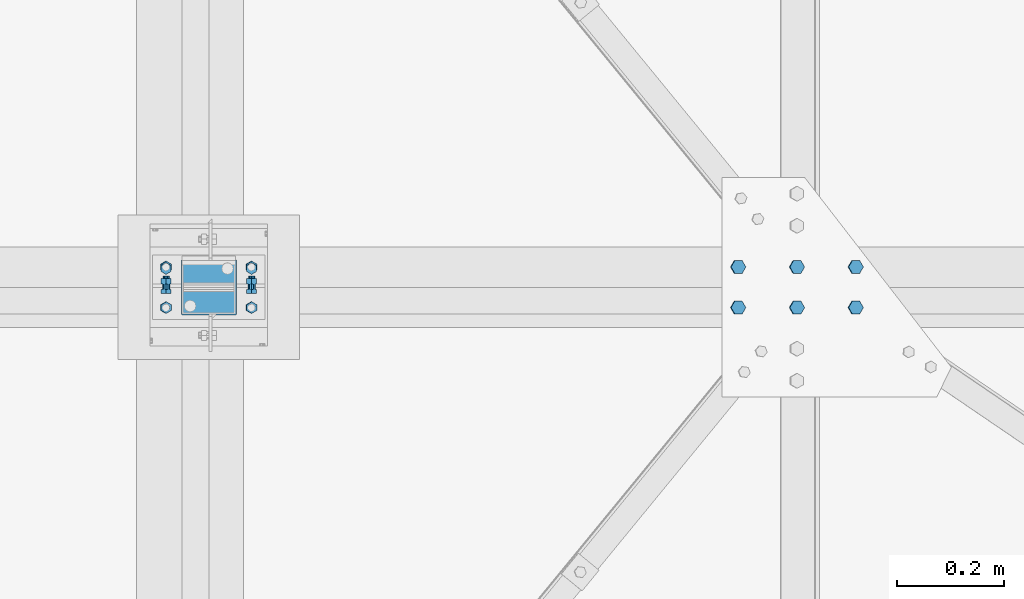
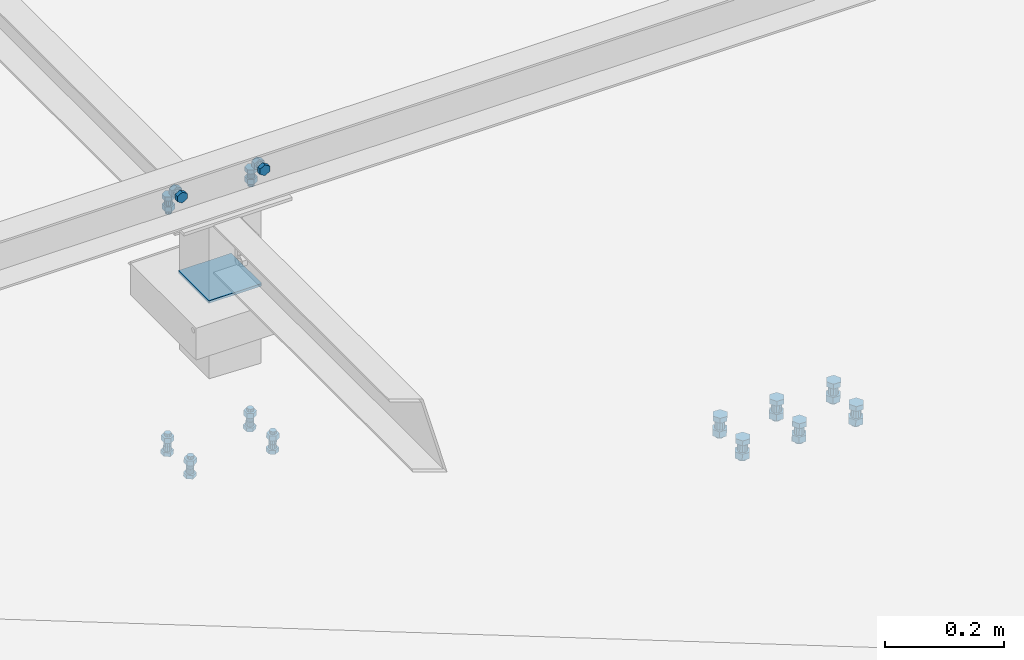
# One storey, part 315 of 3134: 5 mechanical fasteners, 3 elements without a shape of their own.
"""IFC2X3 building model written with IfcOpenShell, lengths in millimetres."""

from ifc_helpers import new_model, si_unit, frame, origin_with_axes, place, context, subcontext, project, spatial, faceted_brep, source, transform, mapped, material, type_object, element, aggregate, save


model = new_model("IFC2X3")

# Units and contexts
model_context = context("Model", 3, precision=1e-05, world=origin_with_axes())
body_context = subcontext(model_context, "Body", "Model", "MODEL_VIEW")
ifc_project = project(units=[si_unit("LENGTHUNIT", "METRE", prefix="MILLI"), si_unit("AREAUNIT", "SQUARE_METRE"), si_unit("VOLUMEUNIT", "CUBIC_METRE"), si_unit("MASSUNIT", "GRAM", prefix="KILO"), si_unit("TIMEUNIT", "SECOND"), si_unit("PLANEANGLEUNIT", "RADIAN"), si_unit("SOLIDANGLEUNIT", "STERADIAN"), si_unit("THERMODYNAMICTEMPERATUREUNIT", "DEGREE_CELSIUS"), si_unit("LUMINOUSINTENSITYUNIT", "LUMEN")], contexts=[model_context])

# Site, building, storey
site_placement = place(None, origin_with_axes())
site = spatial("IfcSite", under=ifc_project, at=site_placement, CompositionType="ELEMENT")
building_placement = place(site_placement, origin_with_axes())
building = spatial("IfcBuilding", under=site, at=building_placement, Name="Undefined", CompositionType="ELEMENT")
storey_placement = place(building_placement, origin_with_axes())
storey = spatial("IfcBuildingStorey", under=building, at=storey_placement, Name="Undefined", CompositionType="ELEMENT", Elevation=0.0)

# Assembly, mechanical fastener
assembly_1_placement = place(storey_placement, origin_with_axes())
assembly_1 = element("IfcElementAssembly", 1, at=assembly_1_placement, inside=storey, Name="300", AssemblyPlace="NOTDEFINED", PredefinedType="RIGID_FRAME")
ifc_material_1 = material(Name="8.8")
mechanical_fastener_type = type_object("IfcMechanicalFastenerType", Name="Bolt assembly")
shared_shape_1 = source(origin_with_axes(), body_context, "Body", "Brep", [
    faceted_brep([(13.856406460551, -23.1999997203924, 0.0), (6.92820323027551, -23.1999997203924, 12.0), (-6.92820323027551, -23.1999997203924, 12.0), (-13.856406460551, -23.1999997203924, 1.69692038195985e-15), (-6.92820323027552, -23.1999997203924, -12.0), (6.9282032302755, -23.1999997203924, -12.0), (6.9282032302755, -13.1999997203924, -12.0), (-6.92820323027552, -13.1999997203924, -12.0), (-13.856406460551, -13.1999997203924, 1.69692038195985e-15), (-6.92820323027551, -13.1999997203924, 12.0), (6.92820323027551, -13.1999997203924, 12.0), (13.856406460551, -13.1999997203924, 0.0), (8.0, -13.1999997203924, 0.0), (6.92820323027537, -13.1999997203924, 4.00000000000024), (3.99999999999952, -13.1999997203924, 6.92820323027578), (-8.29068785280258e-13, -13.1999997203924, 8.0), (-4.00000000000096, -13.1999997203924, 6.92820323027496), (-6.9282032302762, -13.1999997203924, 3.99999999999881), (-8.0, -13.1999997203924, -1.65813757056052e-12), (-6.92820323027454, -13.1999997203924, -4.00000000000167), (-3.99999999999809, -13.1999997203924, -6.92820323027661), (2.47832457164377e-12, -13.1999997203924, -8.0), (4.00000000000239, -13.1999997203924, -6.92820323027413), (6.92820323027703, -13.1999997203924, -3.99999999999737), (6.92820323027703, 21.8000002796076, -3.99999999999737), (4.00000000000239, 21.8000002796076, -6.92820323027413), (2.47832457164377e-12, 21.8000002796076, -8.0), (-3.99999999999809, 21.8000002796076, -6.92820323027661), (-6.92820323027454, 21.8000002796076, -4.00000000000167), (-8.0, 21.8000002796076, -1.65813757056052e-12), (-6.9282032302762, 21.8000002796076, 3.99999999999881), (-4.00000000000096, 21.8000002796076, 6.92820323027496), (-8.29068785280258e-13, 21.8000002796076, 8.0), (3.99999999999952, 21.8000002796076, 6.92820323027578), (6.92820323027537, 21.8000002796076, 4.00000000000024), (8.0, 21.8000002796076, 0.0), (13.856406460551, 3.99999999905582, 0.0), (6.92820323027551, 3.99999999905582, 12.0), (-6.92820323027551, 3.99999999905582, 12.0), (-13.856406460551, 3.99999999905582, 1.69692038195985e-15), (-6.92820323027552, 3.99999999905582, -12.0), (6.9282032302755, 3.99999999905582, -12.0), (6.9282032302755, 16.9999999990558, -12.0), (-6.92820323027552, 16.9999999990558, -12.0), (-13.856406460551, 16.9999999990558, 1.69692038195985e-15), (-6.92820323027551, 16.9999999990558, 12.0), (6.92820323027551, 16.9999999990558, 12.0), (13.856406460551, 16.9999999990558, 0.0)], [[[0, 1, 2, 3, 4, 5]], [[6, 7, 8, 9, 10, 11]], [[0, 11, 10, 1]], [[1, 10, 9, 2]], [[2, 9, 8, 3]], [[3, 8, 7, 4]], [[4, 7, 6, 5]], [[5, 6, 11, 0]], [[12, 13, 14, 15, 16, 17, 18, 19, 20, 21, 22, 23]], [[24, 25, 26, 27, 28, 29, 30, 31, 32, 33, 34, 35]], [[12, 35, 34, 13]], [[13, 34, 33, 14]], [[14, 33, 32, 15]], [[15, 32, 31, 16]], [[16, 31, 30, 17]], [[17, 30, 29, 18]], [[18, 29, 28, 19]], [[19, 28, 27, 20]], [[20, 27, 26, 21]], [[21, 26, 25, 22]], [[22, 25, 24, 23]], [[23, 24, 35, 12]], [[36, 37, 38, 39, 40, 41]], [[42, 43, 44, 45, 46, 47]], [[36, 47, 46, 37]], [[37, 46, 45, 38]], [[38, 45, 44, 39]], [[39, 44, 43, 40]], [[40, 43, 42, 41]], [[41, 42, 47, 36]]]),
    faceted_brep([(9.0, -4.10000000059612, 0.0), (7.79422863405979, -4.10000000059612, 4.50000000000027), (4.49999999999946, -4.10000000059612, 7.79422863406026), (-9.3270238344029e-13, -4.10000000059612, 9.0), (-4.50000000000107, -4.10000000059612, 7.79422863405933), (-7.79422863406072, -4.10000000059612, 4.49999999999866), (-9.0, -4.10000000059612, -1.86540476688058e-12), (-7.79422863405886, -4.10000000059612, -4.50000000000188), (-4.49999999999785, -4.10000000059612, -7.79422863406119), (2.78811514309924e-12, -4.10000000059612, -9.0), (4.50000000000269, -4.10000000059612, -7.7942286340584), (7.79422863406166, -4.10000000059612, -4.49999999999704), (7.79422863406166, 4.00000375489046, -4.49999999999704), (4.50000000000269, 4.00000375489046, -7.7942286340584), (2.78811514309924e-12, 4.00000375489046, -9.0), (-4.49999999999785, 4.00000375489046, -7.79422863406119), (-7.79422863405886, 4.00000375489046, -4.50000000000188), (-9.0, 4.00000375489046, -1.86540476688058e-12), (-7.79422863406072, 4.00000375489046, 4.49999999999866), (-4.50000000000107, 4.00000375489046, 7.79422863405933), (-9.3270238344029e-13, 4.00000375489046, 9.0), (4.49999999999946, 4.00000375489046, 7.79422863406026), (7.79422863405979, 4.00000375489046, 4.50000000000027), (9.0, 4.00000375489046, 0.0), (9.0, -13.0999997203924, 0.0), (7.79422863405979, -13.0999997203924, 4.50000000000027), (4.49999999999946, -13.0999997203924, 7.79422863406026), (-9.3270238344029e-13, -13.0999997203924, 9.0), (-4.50000000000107, -13.0999997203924, 7.79422863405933), (-7.79422863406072, -13.0999997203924, 4.49999999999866), (-9.0, -13.0999997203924, -1.86540476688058e-12), (-7.79422863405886, -13.0999997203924, -4.50000000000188), (-4.49999999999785, -13.0999997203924, -7.79422863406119), (2.78811514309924e-12, -13.0999997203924, -9.0), (4.50000000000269, -13.0999997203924, -7.7942286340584), (7.79422863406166, -13.0999997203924, -4.49999999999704), (7.79422863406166, -3.9, -4.49999999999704), (4.50000000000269, -3.9, -7.7942286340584), (2.78811514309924e-12, -3.9, -9.0), (-4.49999999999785, -3.9, -7.79422863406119), (-7.79422863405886, -3.9, -4.50000000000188), (-9.0, -3.9, -1.86540476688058e-12), (-7.79422863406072, -3.9, 4.49999999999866), (-4.50000000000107, -3.9, 7.79422863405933), (-9.3270238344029e-13, -3.9, 9.0), (4.49999999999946, -3.9, 7.79422863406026), (7.79422863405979, -3.9, 4.50000000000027), (9.0, -3.9, 0.0)], [[[0, 1, 2, 3, 4, 5, 6, 7, 8, 9, 10, 11]], [[12, 13, 14, 15, 16, 17, 18, 19, 20, 21, 22, 23]], [[0, 23, 22, 1]], [[1, 22, 21, 2]], [[2, 21, 20, 3]], [[3, 20, 19, 4]], [[4, 19, 18, 5]], [[5, 18, 17, 6]], [[6, 17, 16, 7]], [[7, 16, 15, 8]], [[8, 15, 14, 9]], [[9, 14, 13, 10]], [[10, 13, 12, 11]], [[11, 12, 23, 0]], [[24, 25, 26, 27, 28, 29, 30, 31, 32, 33, 34, 35]], [[36, 37, 38, 39, 40, 41, 42, 43, 44, 45, 46, 47]], [[24, 47, 46, 25]], [[25, 46, 45, 26]], [[26, 45, 44, 27]], [[27, 44, 43, 28]], [[28, 43, 42, 29]], [[29, 42, 41, 30]], [[30, 41, 40, 31]], [[31, 40, 39, 32]], [[32, 39, 38, 33]], [[33, 38, 37, 34]], [[34, 37, 36, 35]], [[35, 36, 47, 24]]]),
])
mechanical_fastener_1_placement = place(assembly_1_placement, frame((71810.0024003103, 5099.99999999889, 5006.79538874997), z_axis=(0.0, -1.0, 0.0), x_axis=(-0.999519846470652, 0.0, 0.0309851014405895)))
mechanical_fastener_1 = element("IfcMechanicalFastener", 2, at=mechanical_fastener_1_placement, type_object=mechanical_fastener_type, material=ifc_material_1, Name="Bolt assembly", NominalDiameter=16.0, NominalLength=35.0, context=body_context, shape_type="MappedRepresentation", body=[
    mapped(shared_shape_1, transform((0.0, 0.0, -38.0))),
    mapped(shared_shape_1, transform((110.000000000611, 4.58385329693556e-10, -38.0))),
    mapped(shared_shape_1, transform((220.000000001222, 9.20408638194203e-10, -38.0))),
    mapped(shared_shape_1, transform((0.0, 0.0, 38.0))),
    mapped(shared_shape_1, transform((110.000000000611, 4.58385329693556e-10, 38.0))),
    mapped(shared_shape_1, transform((220.000000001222, 9.20408638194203e-10, 38.0))),
])

assembly_2_placement = place(storey_placement, origin_with_axes())
assembly_2 = element("IfcElementAssembly", 3, at=assembly_2_placement, inside=storey, AssemblyPlace="NOTDEFINED", PredefinedType="RIGID_FRAME")
shared_shape_2 = source(origin_with_axes(), body_context, "Body", "Brep", [
    faceted_brep([(10.9696551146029, -14.0, 0.0), (5.48482755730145, -14.0, 9.5), (-5.48482755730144, -14.0, 9.5), (-10.9696551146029, -14.0, 1.34339530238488e-15), (-5.48482755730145, -14.0, -9.5), (5.48482755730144, -14.0, -9.50000000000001), (5.48482755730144, -6.0, -9.50000000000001), (-5.48482755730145, -6.0, -9.5), (-10.9696551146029, -6.0, 1.34339530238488e-15), (-5.48482755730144, -6.0, 9.5), (5.48482755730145, -6.0, 9.5), (10.9696551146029, -6.0, 0.0), (6.0, -6.0, 0.0), (5.19615242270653, -6.0, 3.00000000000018), (2.99999999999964, -6.0, 5.19615242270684), (-6.21801588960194e-13, -6.0, 6.0), (-3.00000000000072, -6.0, 5.19615242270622), (-5.19615242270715, -6.0, 2.9999999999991), (-6.0, -6.0, -1.24360317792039e-12), (-5.19615242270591, -6.0, -3.00000000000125), (-2.99999999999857, -6.0, -5.19615242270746), (1.85874342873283e-12, -6.0, -6.0), (3.00000000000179, -6.0, -5.1961524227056), (5.19615242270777, -6.0, -2.99999999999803), (5.19615242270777, 24.0, -2.99999999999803), (3.00000000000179, 24.0, -5.1961524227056), (1.85874342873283e-12, 24.0, -6.0), (-2.99999999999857, 24.0, -5.19615242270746), (-5.19615242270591, 24.0, -3.00000000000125), (-6.0, 24.0, -1.24360317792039e-12), (-5.19615242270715, 24.0, 2.9999999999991), (-3.00000000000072, 24.0, 5.19615242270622), (-6.21801588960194e-13, 24.0, 6.0), (2.99999999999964, 24.0, 5.19615242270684), (5.19615242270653, 24.0, 3.00000000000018), (6.0, 24.0, 0.0), (10.9696551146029, 6.00000000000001, 0.0), (5.48482755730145, 6.00000000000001, 9.5), (-5.48482755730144, 6.00000000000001, 9.5), (-10.9696551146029, 6.00000000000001, 1.34339530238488e-15), (-5.48482755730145, 6.00000000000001, -9.5), (5.48482755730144, 6.00000000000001, -9.50000000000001), (5.48482755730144, 16.0, -9.50000000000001), (-5.48482755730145, 16.0, -9.5), (-10.9696551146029, 16.0, 1.34339530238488e-15), (-5.48482755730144, 16.0, 9.5), (5.48482755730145, 16.0, 9.5), (10.9696551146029, 16.0, 0.0)], [[[0, 1, 2, 3, 4, 5]], [[6, 7, 8, 9, 10, 11]], [[0, 11, 10, 1]], [[1, 10, 9, 2]], [[2, 9, 8, 3]], [[3, 8, 7, 4]], [[4, 7, 6, 5]], [[5, 6, 11, 0]], [[12, 13, 14, 15, 16, 17, 18, 19, 20, 21, 22, 23]], [[24, 25, 26, 27, 28, 29, 30, 31, 32, 33, 34, 35]], [[12, 35, 34, 13]], [[13, 34, 33, 14]], [[14, 33, 32, 15]], [[15, 32, 31, 16]], [[16, 31, 30, 17]], [[17, 30, 29, 18]], [[18, 29, 28, 19]], [[19, 28, 27, 20]], [[20, 27, 26, 21]], [[21, 26, 25, 22]], [[22, 25, 24, 23]], [[23, 24, 35, 12]], [[36, 37, 38, 39, 40, 41]], [[42, 43, 44, 45, 46, 47]], [[36, 47, 46, 37]], [[37, 46, 45, 38]], [[38, 45, 44, 39]], [[39, 44, 43, 40]], [[40, 43, 42, 41]], [[41, 42, 47, 36]]]),
    faceted_brep([(7.0, -0.1, 0.0), (6.06217782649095, -0.1, 3.50000000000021), (3.49999999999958, -0.1, 6.06217782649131), (-7.25435187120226e-13, -0.1, 7.0), (-3.50000000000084, -0.1, 6.06217782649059), (-6.06217782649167, -0.1, 3.49999999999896), (-7.0, -0.1, -1.45087037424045e-12), (-6.06217782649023, -0.1, -3.50000000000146), (-3.49999999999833, -0.1, -6.06217782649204), (2.1685340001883e-12, -0.1, -7.0), (3.50000000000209, -0.1, -6.06217782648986), (6.0621778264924, -0.1, -3.4999999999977), (6.0621778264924, 6.00000000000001, -3.4999999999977), (3.50000000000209, 6.00000000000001, -6.06217782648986), (2.1685340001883e-12, 6.00000000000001, -7.0), (-3.49999999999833, 6.00000000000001, -6.06217782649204), (-6.06217782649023, 6.00000000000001, -3.50000000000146), (-7.0, 6.00000000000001, -1.45087037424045e-12), (-6.06217782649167, 6.00000000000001, 3.49999999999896), (-3.50000000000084, 6.00000000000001, 6.06217782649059), (-7.25435187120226e-13, 6.00000000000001, 7.0), (3.49999999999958, 6.00000000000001, 6.06217782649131), (6.06217782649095, 6.00000000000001, 3.50000000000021), (7.0, 6.00000000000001, 0.0), (7.0, -5.9, 0.0), (6.06217782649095, -5.9, 3.50000000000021), (3.49999999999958, -5.9, 6.06217782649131), (-7.25435187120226e-13, -5.9, 7.0), (-3.50000000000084, -5.9, 6.06217782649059), (-6.06217782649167, -5.9, 3.49999999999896), (-7.0, -5.9, -1.45087037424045e-12), (-6.06217782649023, -5.9, -3.50000000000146), (-3.49999999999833, -5.9, -6.06217782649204), (2.1685340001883e-12, -5.9, -7.0), (3.50000000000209, -5.9, -6.06217782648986), (6.0621778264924, -5.9, -3.4999999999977), (6.0621778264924, 0.0999999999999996, -3.4999999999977), (3.50000000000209, 0.0999999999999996, -6.06217782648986), (2.1685340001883e-12, 0.0999999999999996, -7.0), (-3.49999999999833, 0.0999999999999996, -6.06217782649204), (-6.06217782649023, 0.0999999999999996, -3.50000000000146), (-7.0, 0.0999999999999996, -1.45087037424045e-12), (-6.06217782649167, 0.0999999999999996, 3.49999999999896), (-3.50000000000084, 0.0999999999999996, 6.06217782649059), (-7.25435187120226e-13, 0.0999999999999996, 7.0), (3.49999999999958, 0.0999999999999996, 6.06217782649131), (6.06217782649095, 0.0999999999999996, 3.50000000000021), (7.0, 0.0999999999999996, 0.0)], [[[0, 1, 2, 3, 4, 5, 6, 7, 8, 9, 10, 11]], [[12, 13, 14, 15, 16, 17, 18, 19, 20, 21, 22, 23]], [[0, 23, 22, 1]], [[1, 22, 21, 2]], [[2, 21, 20, 3]], [[3, 20, 19, 4]], [[4, 19, 18, 5]], [[5, 18, 17, 6]], [[6, 17, 16, 7]], [[7, 16, 15, 8]], [[8, 15, 14, 9]], [[9, 14, 13, 10]], [[10, 13, 12, 11]], [[11, 12, 23, 0]], [[24, 25, 26, 27, 28, 29, 30, 31, 32, 33, 34, 35]], [[36, 37, 38, 39, 40, 41, 42, 43, 44, 45, 46, 47]], [[24, 47, 46, 25]], [[25, 46, 45, 26]], [[26, 45, 44, 27]], [[27, 44, 43, 28]], [[28, 43, 42, 29]], [[29, 42, 41, 30]], [[30, 41, 40, 31]], [[31, 40, 39, 32]], [[32, 39, 38, 33]], [[33, 38, 37, 34]], [[34, 37, 36, 35]], [[35, 36, 47, 24]]]),
])
mechanical_fastener_2_placement = place(assembly_2_placement, frame((70600.0, 5135.0, 5850.0), z_axis=(1.0, 0.0, 0.0), x_axis=(0.0, -1.0, 0.0)))
mechanical_fastener_2 = element("IfcMechanicalFastener", 4, at=mechanical_fastener_2_placement, type_object=mechanical_fastener_type, material=ifc_material_1, Name="Bolt assembly", NominalDiameter=12.0, NominalLength=30.0, context=body_context, shape_type="MappedRepresentation", body=[
    mapped(shared_shape_2, transform((0.0, -5.32963895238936e-10, -79.9999999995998))),
    mapped(shared_shape_2, transform((0.0, 5.3114490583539e-10, 79.9999999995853))),
])

assembly_3_placement = place(storey_placement, origin_with_axes())
assembly_3 = element("IfcElementAssembly", 5, at=assembly_3_placement, inside=storey, AssemblyPlace="NOTDEFINED", PredefinedType="RIGID_FRAME")
ifc_material_2 = material(Name="6.8")
shared_shape_3 = source(origin_with_axes(), body_context, "Body", "Brep", [
    faceted_brep([(51.5, 1.36424205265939e-12, 50.0), (51.3858192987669, 1.36424205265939e-12, 50.5740251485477), (51.0606601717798, 1.36424205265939e-12, 51.0606601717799), (50.5740251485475, 1.36424205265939e-12, 51.385819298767), (-50.0000000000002, 1.36424205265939e-12, 51.5), (-50.7500000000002, 1.36424205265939e-12, 51.2990381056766), (-51.2990381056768, 1.36424205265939e-12, 50.7499999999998), (-51.5, 1.36424205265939e-12, 49.9999999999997), (-51.5, 1.36424205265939e-12, -50.0000000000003), (-51.2990381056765, 1.36424205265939e-12, -50.7500000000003), (-50.7499999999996, 1.36424205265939e-12, -51.2990381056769), (-49.9999999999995, 1.36424205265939e-12, -51.5), (50.0000000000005, 1.36424205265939e-12, -51.5), (50.7500000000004, 1.36424205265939e-12, -51.2990381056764), (51.2990381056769, 1.36424205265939e-12, -50.7499999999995), (51.5, 1.36424205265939e-12, -49.9999999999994), (51.5, 5.10000000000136, -49.9999999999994), (51.2990381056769, 5.10000000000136, -50.7499999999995), (50.7500000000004, 5.10000000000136, -51.2990381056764), (50.0000000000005, 5.10000000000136, -51.5), (-49.9999999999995, 5.10000000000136, -51.5), (-50.7499999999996, 5.10000000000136, -51.2990381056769), (-51.2990381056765, 5.10000000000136, -50.7500000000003), (-51.5, 5.10000000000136, -50.0000000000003), (-51.5, 5.10000000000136, 49.9999999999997), (-51.2990381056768, 5.10000000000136, 50.7499999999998), (-50.7500000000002, 5.10000000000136, 51.2990381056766), (-50.0000000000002, 5.10000000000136, 51.5), (50.5740251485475, 5.10000000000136, 51.385819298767), (51.0606601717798, 5.10000000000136, 51.0606601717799), (51.3858192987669, 5.10000000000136, 50.5740251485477), (51.5, 5.10000000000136, 50.0)], [[[0, 1, 2, 3, 4, 5, 6, 7, 8, 9, 10, 11, 12, 13, 14, 15]], [[16, 17, 18, 19, 20, 21, 22, 23, 24, 25, 26, 27, 28, 29, 30, 31]], [[0, 31, 30, 1]], [[1, 30, 29, 2]], [[2, 29, 28, 3]], [[3, 28, 27, 4]], [[4, 27, 26, 5]], [[5, 26, 25, 6]], [[6, 25, 24, 7]], [[7, 24, 23, 8]], [[8, 23, 22, 9]], [[9, 22, 21, 10]], [[10, 21, 20, 11]], [[11, 20, 19, 12]], [[12, 19, 18, 13]], [[13, 18, 17, 14]], [[14, 17, 16, 15]], [[15, 16, 31, 0]]]),
])
mechanical_fastener_3_placement = place(assembly_3_placement, frame((70600.0, 5100.0, 5687.16), z_axis=(0.0, -1.0, 0.0), x_axis=(-1.0, 0.0, 0.0)))
mechanical_fastener_3 = element("IfcMechanicalFastener", 6, at=mechanical_fastener_3_placement, type_object=mechanical_fastener_type, material=ifc_material_2, Name="Bolt assembly", NominalDiameter=10.0, NominalLength=5.0, context=body_context, shape_type="MappedRepresentation", body=[
    mapped(shared_shape_3, transform((0.0, 0.0, 0.0))),
])
aggregate(assembly_3, [mechanical_fastener_3])

# Mechanical fastener
shared_shape_4 = source(origin_with_axes(), body_context, "Body", "Brep", [
    faceted_brep([(10.9696551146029, -12.0, 0.0), (5.48482755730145, -12.0, 9.5), (-5.48482755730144, -12.0, 9.5), (-10.9696551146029, -12.0, 1.34339530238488e-15), (-5.48482755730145, -12.0, -9.5), (5.48482755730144, -12.0, -9.50000000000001), (5.48482755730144, -4.0, -9.50000000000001), (-5.48482755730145, -4.0, -9.5), (-10.9696551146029, -4.0, 1.34339530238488e-15), (-5.48482755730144, -4.0, 9.5), (5.48482755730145, -4.0, 9.5), (10.9696551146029, -4.0, 0.0), (6.0, -4.0, 0.0), (5.19615242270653, -4.0, 3.00000000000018), (2.99999999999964, -4.0, 5.19615242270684), (-6.21801588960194e-13, -4.0, 6.0), (-3.00000000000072, -4.0, 5.19615242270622), (-5.19615242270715, -4.0, 2.9999999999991), (-6.0, -4.0, -1.24360317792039e-12), (-5.19615242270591, -4.0, -3.00000000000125), (-2.99999999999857, -4.0, -5.19615242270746), (1.85874342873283e-12, -4.0, -6.0), (3.00000000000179, -4.0, -5.1961524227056), (5.19615242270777, -4.0, -2.99999999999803), (5.19615242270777, 21.0, -2.99999999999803), (3.00000000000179, 21.0, -5.1961524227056), (1.85874342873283e-12, 21.0, -6.0), (-2.99999999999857, 21.0, -5.19615242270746), (-5.19615242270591, 21.0, -3.00000000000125), (-6.0, 21.0, -1.24360317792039e-12), (-5.19615242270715, 21.0, 2.9999999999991), (-3.00000000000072, 21.0, 5.19615242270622), (-6.21801588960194e-13, 21.0, 6.0), (2.99999999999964, 21.0, 5.19615242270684), (5.19615242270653, 21.0, 3.00000000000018), (6.0, 21.0, 0.0), (10.9696551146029, 6.00000000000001, 0.0), (5.48482755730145, 6.00000000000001, 9.5), (-5.48482755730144, 6.00000000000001, 9.5), (-10.9696551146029, 6.00000000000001, 1.34339530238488e-15), (-5.48482755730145, 6.00000000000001, -9.5), (5.48482755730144, 6.00000000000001, -9.50000000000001), (5.48482755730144, 16.0, -9.50000000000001), (-5.48482755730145, 16.0, -9.5), (-10.9696551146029, 16.0, 1.34339530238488e-15), (-5.48482755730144, 16.0, 9.5), (5.48482755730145, 16.0, 9.5), (10.9696551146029, 16.0, 0.0)], [[[0, 1, 2, 3, 4, 5]], [[6, 7, 8, 9, 10, 11]], [[0, 11, 10, 1]], [[1, 10, 9, 2]], [[2, 9, 8, 3]], [[3, 8, 7, 4]], [[4, 7, 6, 5]], [[5, 6, 11, 0]], [[12, 13, 14, 15, 16, 17, 18, 19, 20, 21, 22, 23]], [[24, 25, 26, 27, 28, 29, 30, 31, 32, 33, 34, 35]], [[12, 35, 34, 13]], [[13, 34, 33, 14]], [[14, 33, 32, 15]], [[15, 32, 31, 16]], [[16, 31, 30, 17]], [[17, 30, 29, 18]], [[18, 29, 28, 19]], [[19, 28, 27, 20]], [[20, 27, 26, 21]], [[21, 26, 25, 22]], [[22, 25, 24, 23]], [[23, 24, 35, 12]], [[36, 37, 38, 39, 40, 41]], [[42, 43, 44, 45, 46, 47]], [[36, 47, 46, 37]], [[37, 46, 45, 38]], [[38, 45, 44, 39]], [[39, 44, 43, 40]], [[40, 43, 42, 41]], [[41, 42, 47, 36]]]),
    faceted_brep([(7.0, -3.9, 0.0), (6.06217782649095, -3.9, 3.50000000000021), (3.49999999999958, -3.9, 6.06217782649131), (-7.25435187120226e-13, -3.9, 7.0), (-3.50000000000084, -3.9, 6.06217782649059), (-6.06217782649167, -3.9, 3.49999999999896), (-7.0, -3.9, -1.45087037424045e-12), (-6.06217782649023, -3.9, -3.50000000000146), (-3.49999999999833, -3.9, -6.06217782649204), (2.1685340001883e-12, -3.9, -7.0), (3.50000000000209, -3.9, -6.06217782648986), (6.0621778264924, -3.9, -3.4999999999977), (6.0621778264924, 0.0999999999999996, -3.4999999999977), (3.50000000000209, 0.0999999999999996, -6.06217782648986), (2.1685340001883e-12, 0.0999999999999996, -7.0), (-3.49999999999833, 0.0999999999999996, -6.06217782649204), (-6.06217782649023, 0.0999999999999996, -3.50000000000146), (-7.0, 0.0999999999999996, -1.45087037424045e-12), (-6.06217782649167, 0.0999999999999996, 3.49999999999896), (-3.50000000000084, 0.0999999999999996, 6.06217782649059), (-7.25435187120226e-13, 0.0999999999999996, 7.0), (3.49999999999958, 0.0999999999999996, 6.06217782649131), (6.06217782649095, 0.0999999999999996, 3.50000000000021), (7.0, 0.0999999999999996, 0.0), (7.0, -0.1, 0.0), (6.06217782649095, -0.1, 3.50000000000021), (3.49999999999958, -0.1, 6.06217782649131), (-7.25435187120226e-13, -0.1, 7.0), (-3.50000000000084, -0.1, 6.06217782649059), (-6.06217782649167, -0.1, 3.49999999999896), (-7.0, -0.1, -1.45087037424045e-12), (-6.06217782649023, -0.1, -3.50000000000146), (-3.49999999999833, -0.1, -6.06217782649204), (2.1685340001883e-12, -0.1, -7.0), (3.50000000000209, -0.1, -6.06217782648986), (6.0621778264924, -0.1, -3.4999999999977), (6.0621778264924, 6.00000000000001, -3.4999999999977), (3.50000000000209, 6.00000000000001, -6.06217782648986), (2.1685340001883e-12, 6.00000000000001, -7.0), (-3.49999999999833, 6.00000000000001, -6.06217782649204), (-6.06217782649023, 6.00000000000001, -3.50000000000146), (-7.0, 6.00000000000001, -1.45087037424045e-12), (-6.06217782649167, 6.00000000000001, 3.49999999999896), (-3.50000000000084, 6.00000000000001, 6.06217782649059), (-7.25435187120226e-13, 6.00000000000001, 7.0), (3.49999999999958, 6.00000000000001, 6.06217782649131), (6.06217782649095, 6.00000000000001, 3.50000000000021), (7.0, 6.00000000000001, 0.0)], [[[0, 1, 2, 3, 4, 5, 6, 7, 8, 9, 10, 11]], [[12, 13, 14, 15, 16, 17, 18, 19, 20, 21, 22, 23]], [[0, 23, 22, 1]], [[1, 22, 21, 2]], [[2, 21, 20, 3]], [[3, 20, 19, 4]], [[4, 19, 18, 5]], [[5, 18, 17, 6]], [[6, 17, 16, 7]], [[7, 16, 15, 8]], [[8, 15, 14, 9]], [[9, 14, 13, 10]], [[10, 13, 12, 11]], [[11, 12, 23, 0]], [[24, 25, 26, 27, 28, 29, 30, 31, 32, 33, 34, 35]], [[36, 37, 38, 39, 40, 41, 42, 43, 44, 45, 46, 47]], [[24, 47, 46, 25]], [[25, 46, 45, 26]], [[26, 45, 44, 27]], [[27, 44, 43, 28]], [[28, 43, 42, 29]], [[29, 42, 41, 30]], [[30, 41, 40, 31]], [[31, 40, 39, 32]], [[32, 39, 38, 33]], [[33, 38, 37, 34]], [[34, 37, 36, 35]], [[35, 36, 47, 24]]]),
])
mechanical_fastener_4_placement = place(assembly_2_placement, frame((70600.0, 5100.0, 5885.0), z_axis=(1.0, 0.0, 0.0), x_axis=(0.0, 0.0, -1.0)))
mechanical_fastener_4 = element("IfcMechanicalFastener", 7, at=mechanical_fastener_4_placement, type_object=mechanical_fastener_type, material=ifc_material_1, Name="Bolt assembly", NominalDiameter=12.0, NominalLength=25.0, context=body_context, shape_type="MappedRepresentation", body=[
    mapped(shared_shape_4, transform((0.0, -5.32963895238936e-10, -79.9999999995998))),
    mapped(shared_shape_4, transform((0.0, 5.3114490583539e-10, 79.9999999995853))),
])

aggregate(assembly_2, [mechanical_fastener_4, mechanical_fastener_2])

shared_shape_5 = source(origin_with_axes(), body_context, "Body", "Brep", [
    faceted_brep([(10.9696551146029, -10.1955642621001, 0.0), (5.48482755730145, -10.1955642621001, 9.5), (-5.48482755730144, -10.1955642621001, 9.5), (-10.9696551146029, -10.1955642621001, 1.34339530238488e-15), (-5.48482755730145, -10.1955642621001, -9.5), (5.48482755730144, -10.1955642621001, -9.50000000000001), (5.48482755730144, -2.19556426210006, -9.50000000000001), (-5.48482755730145, -2.19556426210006, -9.5), (-10.9696551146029, -2.19556426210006, 1.34339530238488e-15), (-5.48482755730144, -2.19556426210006, 9.5), (5.48482755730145, -2.19556426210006, 9.5), (10.9696551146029, -2.19556426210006, 0.0), (6.0, -2.19556426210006, 0.0), (5.19615242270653, -2.19556426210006, 3.00000000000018), (2.99999999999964, -2.19556426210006, 5.19615242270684), (-6.21801588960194e-13, -2.19556426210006, 6.0), (-3.00000000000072, -2.19556426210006, 5.19615242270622), (-5.19615242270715, -2.19556426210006, 2.9999999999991), (-6.0, -2.19556426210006, -1.24360317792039e-12), (-5.19615242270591, -2.19556426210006, -3.00000000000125), (-2.99999999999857, -2.19556426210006, -5.19615242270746), (1.85874342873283e-12, -2.19556426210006, -6.0), (3.00000000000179, -2.19556426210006, -5.1961524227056), (5.19615242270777, -2.19556426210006, -2.99999999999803), (5.19615242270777, 32.8044357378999, -2.99999999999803), (3.00000000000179, 32.8044357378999, -5.1961524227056), (1.85874342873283e-12, 32.8044357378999, -6.0), (-2.99999999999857, 32.8044357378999, -5.19615242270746), (-5.19615242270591, 32.8044357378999, -3.00000000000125), (-6.0, 32.8044357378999, -1.24360317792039e-12), (-5.19615242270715, 32.8044357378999, 2.9999999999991), (-3.00000000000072, 32.8044357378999, 5.19615242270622), (-6.21801588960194e-13, 32.8044357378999, 6.0), (2.99999999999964, 32.8044357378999, 5.19615242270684), (5.19615242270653, 32.8044357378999, 3.00000000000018), (6.0, 32.8044357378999, 0.0), (10.9696551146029, 17.0008987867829, 0.0), (5.48482755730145, 17.0008987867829, 9.5), (-5.48482755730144, 17.0008987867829, 9.5), (-10.9696551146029, 17.0008987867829, 1.34339530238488e-15), (-5.48482755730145, 17.0008987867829, -9.5), (5.48482755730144, 17.0008987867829, -9.50000000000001), (5.48482755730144, 27.0008987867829, -9.50000000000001), (-5.48482755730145, 27.0008987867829, -9.5), (-10.9696551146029, 27.0008987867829, 1.34339530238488e-15), (-5.48482755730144, 27.0008987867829, 9.5), (5.48482755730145, 27.0008987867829, 9.5), (10.9696551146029, 27.0008987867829, 0.0)], [[[0, 1, 2, 3, 4, 5]], [[6, 7, 8, 9, 10, 11]], [[0, 11, 10, 1]], [[1, 10, 9, 2]], [[2, 9, 8, 3]], [[3, 8, 7, 4]], [[4, 7, 6, 5]], [[5, 6, 11, 0]], [[12, 13, 14, 15, 16, 17, 18, 19, 20, 21, 22, 23]], [[24, 25, 26, 27, 28, 29, 30, 31, 32, 33, 34, 35]], [[12, 35, 34, 13]], [[13, 34, 33, 14]], [[14, 33, 32, 15]], [[15, 32, 31, 16]], [[16, 31, 30, 17]], [[17, 30, 29, 18]], [[18, 29, 28, 19]], [[19, 28, 27, 20]], [[20, 27, 26, 21]], [[21, 26, 25, 22]], [[22, 25, 24, 23]], [[23, 24, 35, 12]], [[36, 37, 38, 39, 40, 41]], [[42, 43, 44, 45, 46, 47]], [[36, 47, 46, 37]], [[37, 46, 45, 38]], [[38, 45, 44, 39]], [[39, 44, 43, 40]], [[40, 43, 42, 41]], [[41, 42, 47, 36]]]),
    faceted_brep([(7.0, 8.90089878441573, 0.0), (6.06217782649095, 8.90089878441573, 3.50000000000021), (3.49999999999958, 8.90089878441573, 6.06217782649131), (-7.25435187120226e-13, 8.90089878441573, 7.0), (-3.50000000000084, 8.90089878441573, 6.06217782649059), (-6.06217782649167, 8.90089878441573, 3.49999999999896), (-7.0, 8.90089878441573, -1.45087037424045e-12), (-6.06217782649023, 8.90089878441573, -3.50000000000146), (-3.49999999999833, 8.90089878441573, -6.06217782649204), (2.1685340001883e-12, 8.90089878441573, -7.0), (3.50000000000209, 8.90089878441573, -6.06217782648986), (6.0621778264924, 8.90089878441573, -3.4999999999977), (6.0621778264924, 17.0008987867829, -3.4999999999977), (3.50000000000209, 17.0008987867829, -6.06217782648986), (2.1685340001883e-12, 17.0008987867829, -7.0), (-3.49999999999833, 17.0008987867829, -6.06217782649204), (-6.06217782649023, 17.0008987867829, -3.50000000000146), (-7.0, 17.0008987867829, -1.45087037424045e-12), (-6.06217782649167, 17.0008987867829, 3.49999999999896), (-3.50000000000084, 17.0008987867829, 6.06217782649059), (-7.25435187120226e-13, 17.0008987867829, 7.0), (3.49999999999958, 17.0008987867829, 6.06217782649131), (6.06217782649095, 17.0008987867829, 3.50000000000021), (7.0, 17.0008987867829, 0.0), (7.0, -2.09556426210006, 0.0), (6.06217782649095, -2.09556426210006, 3.50000000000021), (3.49999999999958, -2.09556426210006, 6.06217782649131), (-7.25435187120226e-13, -2.09556426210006, 7.0), (-3.50000000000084, -2.09556426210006, 6.06217782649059), (-6.06217782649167, -2.09556426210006, 3.49999999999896), (-7.0, -2.09556426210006, -1.45087037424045e-12), (-6.06217782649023, -2.09556426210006, -3.50000000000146), (-3.49999999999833, -2.09556426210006, -6.06217782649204), (2.1685340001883e-12, -2.09556426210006, -7.0), (3.50000000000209, -2.09556426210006, -6.06217782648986), (6.0621778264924, -2.09556426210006, -3.4999999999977), (6.0621778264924, 7.10443554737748, -3.4999999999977), (3.50000000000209, 7.10443554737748, -6.06217782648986), (2.1685340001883e-12, 7.10443554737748, -7.0), (-3.49999999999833, 7.10443554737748, -6.06217782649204), (-6.06217782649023, 7.10443554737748, -3.50000000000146), (-7.0, 7.10443554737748, -1.45087037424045e-12), (-6.06217782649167, 7.10443554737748, 3.49999999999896), (-3.50000000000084, 7.10443554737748, 6.06217782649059), (-7.25435187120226e-13, 7.10443554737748, 7.0), (3.49999999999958, 7.10443554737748, 6.06217782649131), (6.06217782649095, 7.10443554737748, 3.50000000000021), (7.0, 7.10443554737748, 0.0)], [[[0, 1, 2, 3, 4, 5, 6, 7, 8, 9, 10, 11]], [[12, 13, 14, 15, 16, 17, 18, 19, 20, 21, 22, 23]], [[0, 23, 22, 1]], [[1, 22, 21, 2]], [[2, 21, 20, 3]], [[3, 20, 19, 4]], [[4, 19, 18, 5]], [[5, 18, 17, 6]], [[6, 17, 16, 7]], [[7, 16, 15, 8]], [[8, 15, 14, 9]], [[9, 14, 13, 10]], [[10, 13, 12, 11]], [[11, 12, 23, 0]], [[24, 25, 26, 27, 28, 29, 30, 31, 32, 33, 34, 35]], [[36, 37, 38, 39, 40, 41, 42, 43, 44, 45, 46, 47]], [[24, 47, 46, 25]], [[25, 46, 45, 26]], [[26, 45, 44, 27]], [[27, 44, 43, 28]], [[28, 43, 42, 29]], [[29, 42, 41, 30]], [[30, 41, 40, 31]], [[31, 40, 39, 32]], [[32, 39, 38, 33]], [[33, 38, 37, 34]], [[34, 37, 36, 35]], [[35, 36, 47, 24]]]),
])
mechanical_fastener_5_placement = place(assembly_1_placement, frame((70599.5351187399, 5138.0, 5338.4572055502), z_axis=(-0.99951962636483, 0.0, 0.0309922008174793), x_axis=(0.0, -1.0, 0.0)))
mechanical_fastener_5 = element("IfcMechanicalFastener", 8, at=mechanical_fastener_5_placement, type_object=mechanical_fastener_type, material=ifc_material_1, Name="Bolt assembly", NominalDiameter=12.0, NominalLength=35.0, context=body_context, shape_type="MappedRepresentation", body=[
    mapped(shared_shape_5, transform((0.0, -5.32963895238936e-10, -79.9999999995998))),
    mapped(shared_shape_5, transform((76.0, -5.32963895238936e-10, -79.9999999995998))),
    mapped(shared_shape_5, transform((0.0, 5.3114490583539e-10, 79.9999999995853))),
    mapped(shared_shape_5, transform((76.0, 5.3114490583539e-10, 79.9999999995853))),
])

aggregate(assembly_1, [mechanical_fastener_5, mechanical_fastener_1])

save(model, "model.ifc")
